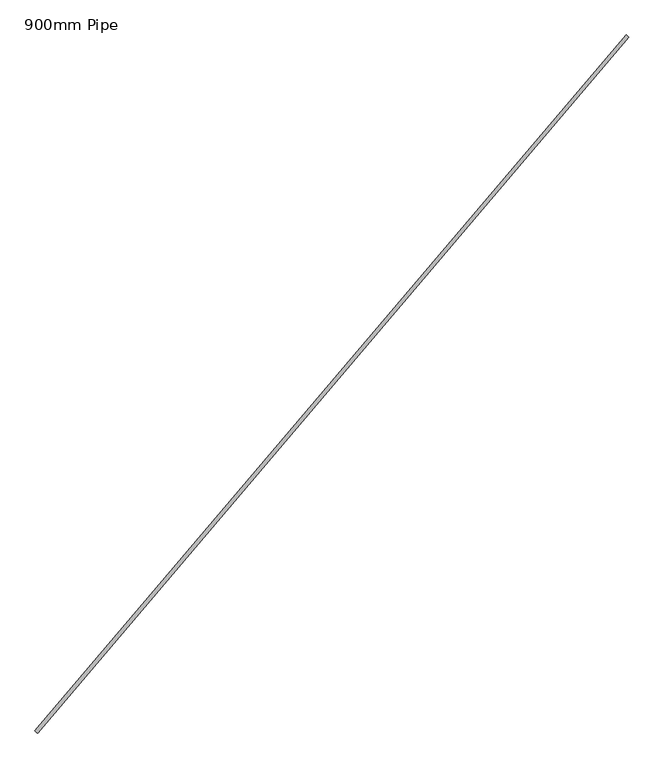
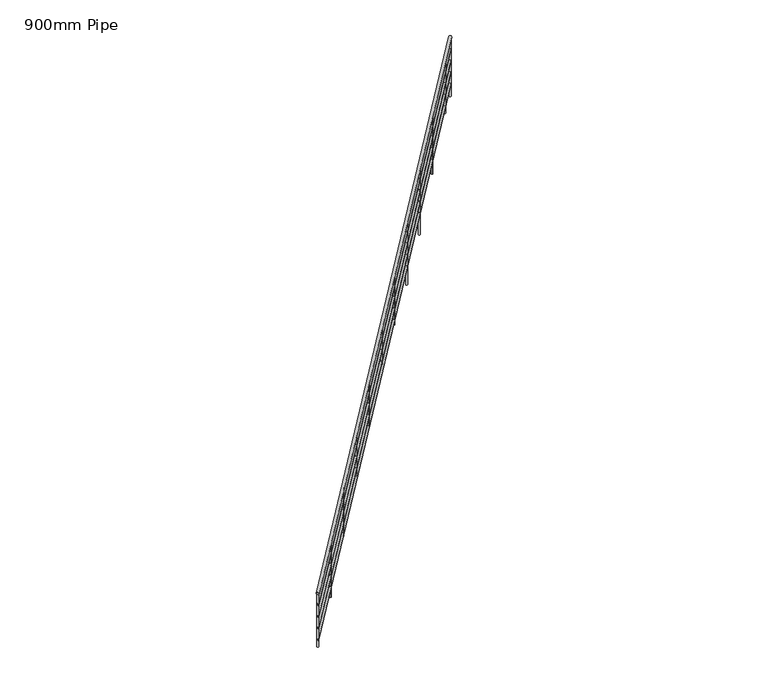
"""IFC4 building model written with IfcOpenShell, lengths in millimetres: railing geometry, 900mm Pipe."""

from ifc_helpers import new_model, si_unit, frame, origin, place, context, project, spatial, circle_curve, ellipse_curve, source, transform, mapped, element, save
from ifc_brep_helpers import plane_surface, cylinder_surface, advanced_brep


def railing_900mm_pipe_16247699(model_context):
    return source(origin(), model_context, "Body", "AdvancedBrep", [
        advanced_brep(
        [(919419.0022177, -23945.5729085, 6101.3054653), (919388.516172, -23919.6769431, 6101.3054653), (926174.2783599, -15992.9187365, 8526.3343786), (926143.7923142, -15967.0227712, 8526.3343786)],
        [
            (0, 1, ellipse_curve(frame((919403.7591948, -23932.6249258, 6101.3054653), z_axis=(-0.6473991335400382, -0.7621511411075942, 0.0), x_axis=(0.0, 0.0, -0.9999999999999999)), 20.5330192, 20.0)),
            (1, 0, ellipse_curve(frame((919403.7591948, -23932.6249258, 6101.3054653), z_axis=(-0.6473991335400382, -0.7621511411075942, 0.0), x_axis=(0.0, 0.0, -0.9999999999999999)), 20.5330192, 20.0)),
            (2, 3, ellipse_curve(frame((926159.035337, -15979.9707538, 8526.3343786), z_axis=(0.6473991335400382, 0.7621511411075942, 0.0), x_axis=(0.0, 0.0, -0.9999999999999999)), 20.5330192, 20.0)),
            (3, 2, ellipse_curve(frame((926159.035337, -15979.9707538, 8526.3343786), z_axis=(0.6473991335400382, 0.7621511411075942, 0.0), x_axis=(0.0, 0.0, -0.9999999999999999)), 20.5330192, 20.0)),
            (1, 3),
            (2, 0),
        ],
        [
            plane_surface(frame((919403.7591948, -23932.6249258, 6121.8384845), z_axis=(-0.6473991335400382, -0.7621511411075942, 0.0), x_axis=(0.7621511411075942, -0.6473991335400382, 0.0))),
            plane_surface(frame((926159.035337, -15979.9707538, 8546.8673978), z_axis=(0.6473991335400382, 0.7621511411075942, 0.0), x_axis=(0.7621511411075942, -0.6473991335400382, 0.0))),
            cylinder_surface(frame((919406.6902583, -23929.174329, 6102.3576671), z_axis=(-0.6305932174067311, -0.7423663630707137, -0.22637220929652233), x_axis=(-0.7621511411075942, 0.6473991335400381, 0.0)), 20.0),
        ],
        [
            (0, [[1, 2]]),
            (1, [[3, 4]]),
            (2, [[-2, 5, -3, 6]]),
            (2, [[-1, -6, -4, -5]]),
        ],
    ),
        advanced_brep(
        [(919415.191462, -23942.3359128, 5906.4387201), (919392.3269277, -23922.9139388, 5906.4387201), (926170.4676042, -15989.6817408, 8331.4676334), (926147.6030699, -15970.2597668, 8331.4676334)],
        [
            (0, 1, ellipse_curve(frame((919403.7591948, -23932.6249258, 5906.4387201), z_axis=(-0.6473991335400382, -0.7621511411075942, 0.0), x_axis=(0.0, 0.0, -0.9999999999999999)), 15.3997644, 15.0)),
            (1, 0, ellipse_curve(frame((919403.7591948, -23932.6249258, 5906.4387201), z_axis=(-0.6473991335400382, -0.7621511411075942, 0.0), x_axis=(0.0, 0.0, -0.9999999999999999)), 15.3997644, 15.0)),
            (2, 3, ellipse_curve(frame((926159.035337, -15979.9707538, 8331.4676334), z_axis=(0.6473991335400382, 0.7621511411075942, 0.0), x_axis=(0.0, 0.0, -0.9999999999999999)), 15.3997644, 15.0)),
            (3, 2, ellipse_curve(frame((926159.035337, -15979.9707538, 8331.4676334), z_axis=(0.6473991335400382, 0.7621511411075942, 0.0), x_axis=(0.0, 0.0, -0.9999999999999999)), 15.3997644, 15.0)),
            (0, 2),
            (3, 1),
        ],
        [
            plane_surface(frame((919403.7591948, -23932.6249258, 5921.8384845), z_axis=(-0.6473991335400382, -0.7621511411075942, 0.0), x_axis=(0.7621511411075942, -0.6473991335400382, 0.0))),
            plane_surface(frame((926159.035337, -15979.9707538, 8346.8673978), z_axis=(0.6473991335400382, 0.7621511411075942, 0.0), x_axis=(0.7621511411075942, -0.6473991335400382, 0.0))),
            cylinder_surface(frame((919405.9574924, -23930.0369782, 5907.2278714), z_axis=(-0.6305932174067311, -0.7423663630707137, -0.22637220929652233), x_axis=(-0.7621511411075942, 0.6473991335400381, 0.0)), 15.0),
        ],
        [
            (0, [[1, 2]]),
            (1, [[3, 4]]),
            (2, [[-1, 5, -4, 6]]),
            (2, [[-2, -6, -3, -5]]),
        ],
    ),
        advanced_brep(
        [(919415.191462, -23942.3359128, 5706.4387201), (919392.3269277, -23922.9139388, 5706.4387201), (926170.4676042, -15989.6817408, 8131.4676334), (926147.6030699, -15970.2597668, 8131.4676334)],
        [
            (0, 1, ellipse_curve(frame((919403.7591948, -23932.6249258, 5706.4387201), z_axis=(-0.6473991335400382, -0.7621511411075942, 0.0), x_axis=(0.0, 0.0, -0.9999999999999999)), 15.3997644, 15.0)),
            (1, 0, ellipse_curve(frame((919403.7591948, -23932.6249258, 5706.4387201), z_axis=(-0.6473991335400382, -0.7621511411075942, 0.0), x_axis=(0.0, 0.0, -0.9999999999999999)), 15.3997644, 15.0)),
            (2, 3, ellipse_curve(frame((926159.035337, -15979.9707538, 8131.4676334), z_axis=(0.6473991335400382, 0.7621511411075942, 0.0), x_axis=(0.0, 0.0, -0.9999999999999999)), 15.3997644, 15.0)),
            (3, 2, ellipse_curve(frame((926159.035337, -15979.9707538, 8131.4676334), z_axis=(0.6473991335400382, 0.7621511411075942, 0.0), x_axis=(0.0, 0.0, -0.9999999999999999)), 15.3997644, 15.0)),
            (0, 2),
            (3, 1),
        ],
        [
            plane_surface(frame((919403.7591948, -23932.6249258, 5721.8384845), z_axis=(-0.6473991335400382, -0.7621511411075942, 0.0), x_axis=(0.7621511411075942, -0.6473991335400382, 0.0))),
            plane_surface(frame((926159.035337, -15979.9707538, 8146.8673978), z_axis=(0.6473991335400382, 0.7621511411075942, 0.0), x_axis=(0.7621511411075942, -0.6473991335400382, 0.0))),
            cylinder_surface(frame((919405.9574924, -23930.0369782, 5707.2278714), z_axis=(-0.6305932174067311, -0.7423663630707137, -0.22637220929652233), x_axis=(-0.7621511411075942, 0.6473991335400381, 0.0)), 15.0),
        ],
        [
            (0, [[1, 2]]),
            (1, [[3, 4]]),
            (2, [[-1, 5, -4, 6]]),
            (2, [[-2, -6, -3, -5]]),
        ],
    ),
        advanced_brep(
        [(919415.191462, -23942.3359128, 5506.4387201), (919392.3269277, -23922.9139388, 5506.4387201), (926170.4676042, -15989.6817408, 7931.4676334), (926147.6030699, -15970.2597668, 7931.4676334)],
        [
            (0, 1, ellipse_curve(frame((919403.7591948, -23932.6249258, 5506.4387201), z_axis=(-0.6473991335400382, -0.7621511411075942, 0.0), x_axis=(0.0, 0.0, -0.9999999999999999)), 15.3997644, 15.0)),
            (1, 0, ellipse_curve(frame((919403.7591948, -23932.6249258, 5506.4387201), z_axis=(-0.6473991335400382, -0.7621511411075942, 0.0), x_axis=(0.0, 0.0, -0.9999999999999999)), 15.3997644, 15.0)),
            (2, 3, ellipse_curve(frame((926159.035337, -15979.9707538, 7931.4676334), z_axis=(0.6473991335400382, 0.7621511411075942, 0.0), x_axis=(0.0, 0.0, -0.9999999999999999)), 15.3997644, 15.0)),
            (3, 2, ellipse_curve(frame((926159.035337, -15979.9707538, 7931.4676334), z_axis=(0.6473991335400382, 0.7621511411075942, 0.0), x_axis=(0.0, 0.0, -0.9999999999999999)), 15.3997644, 15.0)),
            (0, 2),
            (3, 1),
        ],
        [
            plane_surface(frame((919403.7591948, -23932.6249258, 5521.8384845), z_axis=(-0.6473991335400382, -0.7621511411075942, 0.0), x_axis=(0.7621511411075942, -0.6473991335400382, 0.0))),
            plane_surface(frame((926159.035337, -15979.9707538, 7946.8673978), z_axis=(0.6473991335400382, 0.7621511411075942, 0.0), x_axis=(0.7621511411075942, -0.6473991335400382, 0.0))),
            cylinder_surface(frame((919405.9574924, -23930.0369782, 5507.2278714), z_axis=(-0.6305932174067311, -0.7423663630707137, -0.22637220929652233), x_axis=(-0.7621511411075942, 0.6473991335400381, 0.0)), 15.0),
        ],
        [
            (0, [[1, 2]]),
            (1, [[3, 4]]),
            (2, [[-1, 5, -4, 6]]),
            (2, [[-2, -6, -3, -5]]),
        ],
    ),
        advanced_brep(
        [(919415.191462, -23942.3359128, 5306.4387201), (919392.3269277, -23922.9139388, 5306.4387201), (926170.4676042, -15989.6817408, 7731.4676334), (926147.6030699, -15970.2597668, 7731.4676334)],
        [
            (0, 1, ellipse_curve(frame((919403.7591948, -23932.6249258, 5306.4387201), z_axis=(-0.6473991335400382, -0.7621511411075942, 0.0), x_axis=(0.0, 0.0, -0.9999999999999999)), 15.3997644, 15.0)),
            (1, 0, ellipse_curve(frame((919403.7591948, -23932.6249258, 5306.4387201), z_axis=(-0.6473991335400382, -0.7621511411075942, 0.0), x_axis=(0.0, 0.0, -0.9999999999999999)), 15.3997644, 15.0)),
            (2, 3, ellipse_curve(frame((926159.035337, -15979.9707538, 7731.4676334), z_axis=(0.6473991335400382, 0.7621511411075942, 0.0), x_axis=(0.0, 0.0, -0.9999999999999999)), 15.3997644, 15.0)),
            (3, 2, ellipse_curve(frame((926159.035337, -15979.9707538, 7731.4676334), z_axis=(0.6473991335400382, 0.7621511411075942, 0.0), x_axis=(0.0, 0.0, -0.9999999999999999)), 15.3997644, 15.0)),
            (0, 2),
            (3, 1),
        ],
        [
            plane_surface(frame((919403.7591948, -23932.6249258, 5321.8384845), z_axis=(-0.6473991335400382, -0.7621511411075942, 0.0), x_axis=(0.7621511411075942, -0.6473991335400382, 0.0))),
            plane_surface(frame((926159.035337, -15979.9707538, 7746.8673978), z_axis=(0.6473991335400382, 0.7621511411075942, 0.0), x_axis=(0.7621511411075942, -0.6473991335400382, 0.0))),
            cylinder_surface(frame((919405.9574924, -23930.0369782, 5307.2278714), z_axis=(-0.6305932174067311, -0.7423663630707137, -0.22637220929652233), x_axis=(-0.7621511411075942, 0.6473991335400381, 0.0)), 15.0),
        ],
        [
            (0, [[1, 2]]),
            (1, [[3, 4]]),
            (2, [[-1, 5, -4, 6]]),
            (2, [[-2, -6, -3, -5]]),
        ],
    ),
        advanced_brep(
        [(925868.223641, -16303.0210255, 8404.8249114), (925887.2774195, -16319.2060039, 8404.8249114), (925887.2774195, -16319.2060039, 7510.1176471), (925868.223641, -16303.0210255, 7510.1176471)],
        [
            (0, 1, ellipse_curve(frame((925877.7505302, -16311.1135147, 8404.8249114), z_axis=(0.146553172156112, 0.17252983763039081, -0.9740408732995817), x_axis=(0.6305932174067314, 0.7423663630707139, 0.22637220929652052)), 12.833137, 12.5)),
            (1, 2),
            (2, 3, circle_curve(frame((925877.7505302, -16311.1135147, 7510.1176471), z_axis=(0.0, 0.0, 0.9999999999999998), x_axis=(0.7621511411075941, -0.6473991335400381, 0.0)), 12.5)),
            (3, 0),
            (3, 2, circle_curve(frame((925877.7505302, -16311.1135147, 7510.1176471), z_axis=(0.0, 0.0, 0.9999999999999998), x_axis=(0.7621511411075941, -0.6473991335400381, 0.0)), 12.5)),
            (1, 0, ellipse_curve(frame((925877.7505302, -16311.1135147, 8404.8249114), z_axis=(0.146553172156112, 0.17252983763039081, -0.9740408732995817), x_axis=(0.6305932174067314, 0.7423663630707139, 0.22637220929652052)), 12.833137, 12.5)),
        ],
        [
            cylinder_surface(frame((925877.7505302, -16311.1135147, 7410.1176471), z_axis=(0.0, 0.0, 0.9999999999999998), x_axis=(0.7621511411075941, -0.6473991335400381, 0.0)), 12.5),
            plane_surface(frame((925912.9892871, -16308.2447145, 8410.6350426), z_axis=(-0.146553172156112, -0.17252983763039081, 0.9740408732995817), x_axis=(-0.7621511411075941, 0.6473991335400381, 0.0))),
            plane_surface(frame((925880.6193304, -16346.3522716, 7510.1176471), z_axis=(0.0, 0.0, -0.9999999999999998), x_axis=(-0.7621511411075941, 0.6473991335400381, 0.0))),
        ],
        [
            (0, [[1, 2, 3, 4]]),
            (0, [[5, -2, 6, -4]]),
            (1, [[-6, -1]]),
            (2, [[-5, -3]]),
        ],
    ),
        advanced_brep(
        [(925220.8245074, -17065.1721667, 8172.4196649), (925239.878286, -17081.357145, 8172.4196649), (925239.878286, -17081.357145, 7151.5294118), (925220.8245074, -17065.1721667, 7151.5294118)],
        [
            (0, 1, ellipse_curve(frame((925230.3513967, -17073.2646558, 8172.4196649), z_axis=(0.146553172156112, 0.17252983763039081, -0.9740408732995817), x_axis=(0.6305932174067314, 0.7423663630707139, 0.22637220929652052)), 12.833137, 12.5)),
            (1, 2),
            (2, 3, circle_curve(frame((925230.3513967, -17073.2646558, 7151.5294118), z_axis=(0.0, 0.0, 0.9999999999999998), x_axis=(0.7621511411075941, -0.6473991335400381, 0.0)), 12.5)),
            (3, 0),
            (3, 2, circle_curve(frame((925230.3513967, -17073.2646558, 7151.5294118), z_axis=(0.0, 0.0, 0.9999999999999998), x_axis=(0.7621511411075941, -0.6473991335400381, 0.0)), 12.5)),
            (1, 0, ellipse_curve(frame((925230.3513967, -17073.2646558, 8172.4196649), z_axis=(0.146553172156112, 0.17252983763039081, -0.9740408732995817), x_axis=(0.6305932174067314, 0.7423663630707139, 0.22637220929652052)), 12.833137, 12.5)),
        ],
        [
            cylinder_surface(frame((925230.3513967, -17073.2646558, 7051.5294118), z_axis=(0.0, 0.0, 0.9999999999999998), x_axis=(0.7621511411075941, -0.6473991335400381, 0.0)), 12.5),
            plane_surface(frame((925265.5901536, -17070.3958556, 8178.229796), z_axis=(-0.146553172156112, -0.17252983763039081, 0.9740408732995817), x_axis=(-0.7621511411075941, 0.6473991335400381, 0.0))),
            plane_surface(frame((925233.2201969, -17108.5034127, 7151.5294118), z_axis=(0.0, 0.0, -0.9999999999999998), x_axis=(-0.7621511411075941, 0.6473991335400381, 0.0))),
        ],
        [
            (0, [[1, 2, 3, 4]]),
            (0, [[5, -2, 6, -4]]),
            (1, [[-6, -1]]),
            (2, [[-5, -3]]),
        ],
    ),
        advanced_brep(
        [(924573.4253739, -17827.3233078, 7940.0144183), (924592.4791524, -17843.5082861, 7940.0144183), (924592.4791524, -17843.5082861, 6792.9411765), (924573.4253739, -17827.3233078, 6792.9411765)],
        [
            (0, 1, ellipse_curve(frame((924582.9522632, -17835.4157969, 7940.0144183), z_axis=(0.146553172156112, 0.17252983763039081, -0.9740408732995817), x_axis=(0.6305932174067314, 0.7423663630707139, 0.22637220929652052)), 12.833137, 12.5)),
            (1, 2),
            (2, 3, circle_curve(frame((924582.9522632, -17835.4157969, 6792.9411765), z_axis=(0.0, 0.0, 0.9999999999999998), x_axis=(0.7621511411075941, -0.6473991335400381, 0.0)), 12.5)),
            (3, 0),
            (3, 2, circle_curve(frame((924582.9522632, -17835.4157969, 6792.9411765), z_axis=(0.0, 0.0, 0.9999999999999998), x_axis=(0.7621511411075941, -0.6473991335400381, 0.0)), 12.5)),
            (1, 0, ellipse_curve(frame((924582.9522632, -17835.4157969, 7940.0144183), z_axis=(0.146553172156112, 0.17252983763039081, -0.9740408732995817), x_axis=(0.6305932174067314, 0.7423663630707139, 0.22637220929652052)), 12.833137, 12.5)),
        ],
        [
            cylinder_surface(frame((924582.9522632, -17835.4157969, 6692.9411765), z_axis=(0.0, 0.0, 0.9999999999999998), x_axis=(0.7621511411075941, -0.6473991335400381, 0.0)), 12.5),
            plane_surface(frame((924618.19102, -17832.5469967, 7945.8245495), z_axis=(-0.146553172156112, -0.17252983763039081, 0.9740408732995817), x_axis=(-0.7621511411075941, 0.6473991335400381, 0.0))),
            plane_surface(frame((924585.8210634, -17870.6545538, 6792.9411765), z_axis=(0.0, 0.0, -0.9999999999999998), x_axis=(-0.7621511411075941, 0.6473991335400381, 0.0))),
        ],
        [
            (0, [[1, 2, 3, 4]]),
            (0, [[5, -2, 6, -4]]),
            (1, [[-6, -1]]),
            (2, [[-5, -3]]),
        ],
    ),
        advanced_brep(
        [(923926.0262404, -18589.4744489, 7707.6091718), (923945.0800189, -18605.6594272, 7707.6091718), (923945.0800189, -18605.6594272, 6613.6470588), (923926.0262404, -18589.4744489, 6613.6470588)],
        [
            (0, 1, ellipse_curve(frame((923935.5531296, -18597.566938, 7707.6091718), z_axis=(0.146553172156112, 0.17252983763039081, -0.9740408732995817), x_axis=(0.6305932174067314, 0.7423663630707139, 0.22637220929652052)), 12.833137, 12.5)),
            (1, 2),
            (2, 3, circle_curve(frame((923935.5531296, -18597.566938, 6613.6470588), z_axis=(0.0, 0.0, 0.9999999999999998), x_axis=(0.7621511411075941, -0.6473991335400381, 0.0)), 12.5)),
            (3, 0),
            (3, 2, circle_curve(frame((923935.5531296, -18597.566938, 6613.6470588), z_axis=(0.0, 0.0, 0.9999999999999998), x_axis=(0.7621511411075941, -0.6473991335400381, 0.0)), 12.5)),
            (1, 0, ellipse_curve(frame((923935.5531296, -18597.566938, 7707.6091718), z_axis=(0.146553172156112, 0.17252983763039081, -0.9740408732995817), x_axis=(0.6305932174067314, 0.7423663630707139, 0.22637220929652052)), 12.833137, 12.5)),
        ],
        [
            cylinder_surface(frame((923935.5531296, -18597.566938, 6513.6470588), z_axis=(0.0, 0.0, 0.9999999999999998), x_axis=(0.7621511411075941, -0.6473991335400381, 0.0)), 12.5),
            plane_surface(frame((923970.7918865, -18594.6981378, 7713.419303), z_axis=(-0.146553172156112, -0.17252983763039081, 0.9740408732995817), x_axis=(-0.7621511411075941, 0.6473991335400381, 0.0))),
            plane_surface(frame((923938.4219298, -18632.8056949, 6613.6470588), z_axis=(0.0, 0.0, -0.9999999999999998), x_axis=(-0.7621511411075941, 0.6473991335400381, 0.0))),
        ],
        [
            (0, [[1, 2, 3, 4]]),
            (0, [[5, -2, 6, -4]]),
            (1, [[-6, -1]]),
            (2, [[-5, -3]]),
        ],
    ),
        advanced_brep(
        [(923278.6271068, -19351.62559, 7475.2039253), (923297.6808853, -19367.8105683, 7475.2039253), (923297.6808853, -19367.8105683, 6613.6470588), (923278.6271068, -19351.62559, 6613.6470588)],
        [
            (0, 1, ellipse_curve(frame((923288.1539961, -19359.7180791, 7475.2039253), z_axis=(0.146553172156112, 0.17252983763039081, -0.9740408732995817), x_axis=(0.6305932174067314, 0.7423663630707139, 0.22637220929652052)), 12.833137, 12.5)),
            (1, 2),
            (2, 3, circle_curve(frame((923288.1539961, -19359.7180791, 6613.6470588), z_axis=(0.0, 0.0, 0.9999999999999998), x_axis=(0.7621511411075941, -0.6473991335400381, 0.0)), 12.5)),
            (3, 0),
            (3, 2, circle_curve(frame((923288.1539961, -19359.7180791, 6613.6470588), z_axis=(0.0, 0.0, 0.9999999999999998), x_axis=(0.7621511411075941, -0.6473991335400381, 0.0)), 12.5)),
            (1, 0, ellipse_curve(frame((923288.1539961, -19359.7180791, 7475.2039253), z_axis=(0.146553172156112, 0.17252983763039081, -0.9740408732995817), x_axis=(0.6305932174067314, 0.7423663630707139, 0.22637220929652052)), 12.833137, 12.5)),
        ],
        [
            cylinder_surface(frame((923288.1539961, -19359.7180791, 6513.6470588), z_axis=(0.0, 0.0, 0.9999999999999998), x_axis=(0.7621511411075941, -0.6473991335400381, 0.0)), 12.5),
            plane_surface(frame((923323.3927529, -19356.849279, 7481.0140564), z_axis=(-0.146553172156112, -0.17252983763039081, 0.9740408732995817), x_axis=(-0.7621511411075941, 0.6473991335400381, 0.0))),
            plane_surface(frame((923291.0227963, -19394.956836, 6613.6470588), z_axis=(0.0, 0.0, -0.9999999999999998), x_axis=(-0.7621511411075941, 0.6473991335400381, 0.0))),
        ],
        [
            (0, [[1, 2, 3, 4]]),
            (0, [[5, -2, 6, -4]]),
            (1, [[-6, -1]]),
            (2, [[-5, -3]]),
        ],
    ),
        advanced_brep(
        [(922631.2279733, -20113.7767311, 7242.7986787), (922650.2817518, -20129.9617094, 7242.7986787), (922650.2817518, -20129.9617094, 6613.6470588), (922631.2279733, -20113.7767311, 6613.6470588)],
        [
            (0, 1, ellipse_curve(frame((922640.7548625, -20121.8692202, 7242.7986787), z_axis=(0.146553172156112, 0.17252983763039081, -0.9740408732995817), x_axis=(0.6305932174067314, 0.7423663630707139, 0.22637220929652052)), 12.833137, 12.5)),
            (1, 2),
            (2, 3, circle_curve(frame((922640.7548625, -20121.8692202, 6613.6470588), z_axis=(0.0, 0.0, 0.9999999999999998), x_axis=(0.7621511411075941, -0.6473991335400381, 0.0)), 12.5)),
            (3, 0),
            (3, 2, circle_curve(frame((922640.7548625, -20121.8692202, 6613.6470588), z_axis=(0.0, 0.0, 0.9999999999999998), x_axis=(0.7621511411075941, -0.6473991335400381, 0.0)), 12.5)),
            (1, 0, ellipse_curve(frame((922640.7548625, -20121.8692202, 7242.7986787), z_axis=(0.146553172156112, 0.17252983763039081, -0.9740408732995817), x_axis=(0.6305932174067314, 0.7423663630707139, 0.22637220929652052)), 12.833137, 12.5)),
        ],
        [
            cylinder_surface(frame((922640.7548625, -20121.8692202, 6513.6470588), z_axis=(0.0, 0.0, 0.9999999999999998), x_axis=(0.7621511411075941, -0.6473991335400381, 0.0)), 12.5),
            plane_surface(frame((922675.9936194, -20119.0004201, 7248.6088099), z_axis=(-0.146553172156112, -0.17252983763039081, 0.9740408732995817), x_axis=(-0.7621511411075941, 0.6473991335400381, 0.0))),
            plane_surface(frame((922643.6236627, -20157.1079771, 6613.6470588), z_axis=(0.0, 0.0, -0.9999999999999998), x_axis=(-0.7621511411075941, 0.6473991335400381, 0.0))),
        ],
        [
            (0, [[1, 2, 3, 4]]),
            (0, [[5, -2, 6, -4]]),
            (1, [[-6, -1]]),
            (2, [[-5, -3]]),
        ],
    ),
        advanced_brep(
        [(921983.8288397, -20875.9278722, 7010.3934322), (922002.8826183, -20892.1128505, 7010.3934322), (922002.8826183, -20892.1128505, 6255.0588235), (921983.8288397, -20875.9278722, 6255.0588235)],
        [
            (0, 1, ellipse_curve(frame((921993.355729, -20884.0203614, 7010.3934322), z_axis=(0.146553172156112, 0.17252983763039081, -0.9740408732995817), x_axis=(0.6305932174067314, 0.7423663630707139, 0.22637220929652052)), 12.833137, 12.5)),
            (1, 2),
            (2, 3, circle_curve(frame((921993.355729, -20884.0203614, 6255.0588235), z_axis=(0.0, 0.0, 0.9999999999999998), x_axis=(0.7621511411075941, -0.6473991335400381, 0.0)), 12.5)),
            (3, 0),
            (3, 2, circle_curve(frame((921993.355729, -20884.0203614, 6255.0588235), z_axis=(0.0, 0.0, 0.9999999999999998), x_axis=(0.7621511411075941, -0.6473991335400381, 0.0)), 12.5)),
            (1, 0, ellipse_curve(frame((921993.355729, -20884.0203614, 7010.3934322), z_axis=(0.146553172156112, 0.17252983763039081, -0.9740408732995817), x_axis=(0.6305932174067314, 0.7423663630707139, 0.22637220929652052)), 12.833137, 12.5)),
        ],
        [
            cylinder_surface(frame((921993.355729, -20884.0203614, 6155.0588235), z_axis=(0.0, 0.0, 0.9999999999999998), x_axis=(0.7621511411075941, -0.6473991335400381, 0.0)), 12.5),
            plane_surface(frame((922028.5944859, -20881.1515612, 7016.2035634), z_axis=(-0.146553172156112, -0.17252983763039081, 0.9740408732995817), x_axis=(-0.7621511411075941, 0.6473991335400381, 0.0))),
            plane_surface(frame((921996.2245292, -20919.2591182, 6255.0588235), z_axis=(0.0, 0.0, -0.9999999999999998), x_axis=(-0.7621511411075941, 0.6473991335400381, 0.0))),
        ],
        [
            (0, [[1, 2, 3, 4]]),
            (0, [[5, -2, 6, -4]]),
            (1, [[-6, -1]]),
            (2, [[-5, -3]]),
        ],
    ),
        advanced_brep(
        [(921336.4297062, -21638.0790133, 6777.9881857), (921355.4834847, -21654.2639916, 6777.9881857), (921355.4834847, -21654.2639916, 6075.7647059), (921336.4297062, -21638.0790133, 6075.7647059)],
        [
            (0, 1, ellipse_curve(frame((921345.9565955, -21646.1715025, 6777.9881857), z_axis=(0.14655317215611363, 0.1725298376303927, -0.9740408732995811), x_axis=(0.630593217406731, 0.7423663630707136, 0.22637220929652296)), 12.833137, 12.5)),
            (1, 2),
            (2, 3, circle_curve(frame((921345.9565955, -21646.1715025, 6075.7647059), z_axis=(0.0, 0.0, 0.9999999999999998), x_axis=(0.7621511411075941, -0.6473991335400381, 0.0)), 12.5)),
            (3, 0),
            (3, 2, circle_curve(frame((921345.9565955, -21646.1715025, 6075.7647059), z_axis=(0.0, 0.0, 0.9999999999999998), x_axis=(0.7621511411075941, -0.6473991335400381, 0.0)), 12.5)),
            (1, 0, ellipse_curve(frame((921345.9565955, -21646.1715025, 6777.9881857), z_axis=(0.14655317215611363, 0.1725298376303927, -0.9740408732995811), x_axis=(0.630593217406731, 0.7423663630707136, 0.22637220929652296)), 12.833137, 12.5)),
        ],
        [
            cylinder_surface(frame((921345.9565955, -21646.1715025, 5975.7647059), z_axis=(0.0, 0.0, 0.9999999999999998), x_axis=(0.7621511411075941, -0.6473991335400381, 0.0)), 12.5),
            plane_surface(frame((921381.1953523, -21643.3027023, 6783.7983168), z_axis=(-0.14655317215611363, -0.1725298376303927, 0.9740408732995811), x_axis=(-0.7621511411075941, 0.6473991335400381, 0.0))),
            plane_surface(frame((921348.8253957, -21681.4102593, 6075.7647059), z_axis=(0.0, 0.0, -0.9999999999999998), x_axis=(-0.7621511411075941, 0.6473991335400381, 0.0))),
        ],
        [
            (0, [[1, 2, 3, 4]]),
            (0, [[5, -2, 6, -4]]),
            (1, [[-6, -1]]),
            (2, [[-5, -3]]),
        ],
    ),
        advanced_brep(
        [(920689.0305727, -22400.2301544, 6545.5829391), (920708.0843512, -22416.4151327, 6545.5829391), (920708.0843512, -22416.4151327, 5717.1764706), (920689.0305727, -22400.2301544, 5717.1764706)],
        [
            (0, 1, ellipse_curve(frame((920698.5574619, -22408.3226436, 6545.5829391), z_axis=(0.146553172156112, 0.17252983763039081, -0.9740408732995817), x_axis=(0.6305932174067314, 0.7423663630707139, 0.22637220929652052)), 12.833137, 12.5)),
            (1, 2),
            (2, 3, circle_curve(frame((920698.5574619, -22408.3226436, 5717.1764706), z_axis=(0.0, 0.0, 0.9999999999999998), x_axis=(0.7621511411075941, -0.6473991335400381, 0.0)), 12.5)),
            (3, 0),
            (3, 2, circle_curve(frame((920698.5574619, -22408.3226436, 5717.1764706), z_axis=(0.0, 0.0, 0.9999999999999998), x_axis=(0.7621511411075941, -0.6473991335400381, 0.0)), 12.5)),
            (1, 0, ellipse_curve(frame((920698.5574619, -22408.3226436, 6545.5829391), z_axis=(0.146553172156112, 0.17252983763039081, -0.9740408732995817), x_axis=(0.6305932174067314, 0.7423663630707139, 0.22637220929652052)), 12.833137, 12.5)),
        ],
        [
            cylinder_surface(frame((920698.5574619, -22408.3226436, 5617.1764706), z_axis=(0.0, 0.0, 0.9999999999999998), x_axis=(0.7621511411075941, -0.6473991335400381, 0.0)), 12.5),
            plane_surface(frame((920733.7962188, -22405.4538434, 6551.3930703), z_axis=(-0.146553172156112, -0.17252983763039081, 0.9740408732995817), x_axis=(-0.7621511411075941, 0.6473991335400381, 0.0))),
            plane_surface(frame((920701.4262621, -22443.5614004, 5717.1764706), z_axis=(0.0, 0.0, -0.9999999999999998), x_axis=(-0.7621511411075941, 0.6473991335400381, 0.0))),
        ],
        [
            (0, [[1, 2, 3, 4]]),
            (0, [[5, -2, 6, -4]]),
            (1, [[-6, -1]]),
            (2, [[-5, -3]]),
        ],
    ),
        advanced_brep(
        [(920041.6314391, -23162.3812955, 6313.1776926), (920060.6852176, -23178.5662738, 6313.1776926), (920060.6852176, -23178.5662738, 5358.5882353), (920041.6314391, -23162.3812955, 5358.5882353)],
        [
            (0, 1, ellipse_curve(frame((920051.1583284, -23170.4737847, 6313.1776926), z_axis=(0.14655317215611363, 0.1725298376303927, -0.9740408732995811), x_axis=(0.630593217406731, 0.7423663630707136, 0.22637220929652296)), 12.833137, 12.5)),
            (1, 2),
            (2, 3, circle_curve(frame((920051.1583284, -23170.4737847, 5358.5882353), z_axis=(0.0, 0.0, 0.9999999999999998), x_axis=(0.7621511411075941, -0.6473991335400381, 0.0)), 12.5)),
            (3, 0),
            (3, 2, circle_curve(frame((920051.1583284, -23170.4737847, 5358.5882353), z_axis=(0.0, 0.0, 0.9999999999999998), x_axis=(0.7621511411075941, -0.6473991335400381, 0.0)), 12.5)),
            (1, 0, ellipse_curve(frame((920051.1583284, -23170.4737847, 6313.1776926), z_axis=(0.14655317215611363, 0.1725298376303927, -0.9740408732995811), x_axis=(0.630593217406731, 0.7423663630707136, 0.22637220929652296)), 12.833137, 12.5)),
        ],
        [
            cylinder_surface(frame((920051.1583284, -23170.4737847, 5258.5882353), z_axis=(0.0, 0.0, 0.9999999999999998), x_axis=(0.7621511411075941, -0.6473991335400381, 0.0)), 12.5),
            plane_surface(frame((920086.3970852, -23167.6049845, 6318.9878238), z_axis=(-0.14655317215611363, -0.1725298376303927, 0.9740408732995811), x_axis=(-0.7621511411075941, 0.6473991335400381, 0.0))),
            plane_surface(frame((920054.0271286, -23205.7125415, 5358.5882353), z_axis=(0.0, 0.0, -0.9999999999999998), x_axis=(-0.7621511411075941, 0.6473991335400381, 0.0))),
        ],
        [
            (0, [[1, 2, 3, 4]]),
            (0, [[5, -2, 6, -4]]),
            (1, [[-6, -1]]),
            (2, [[-5, -3]]),
        ],
    ),
        advanced_brep(
        [(926141.4159586, -15981.4051539, 8502.8962937), (926160.4697371, -15997.5901323, 8502.8962937), (926160.4697371, -15997.5901323, 7510.1176471), (926141.4159586, -15981.4051539, 7510.1176471)],
        [
            (0, 1, ellipse_curve(frame((926150.9428479, -15989.4976431, 8502.8962937), z_axis=(0.146553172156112, 0.17252983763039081, -0.9740408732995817), x_axis=(0.6305932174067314, 0.7423663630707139, 0.22637220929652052)), 12.833137, 12.5)),
            (1, 2),
            (2, 3, circle_curve(frame((926150.9428479, -15989.4976431, 7510.1176471), z_axis=(0.0, 0.0, 0.9999999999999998), x_axis=(0.7621511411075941, -0.6473991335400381, 0.0)), 12.5)),
            (3, 0),
            (3, 2, circle_curve(frame((926150.9428479, -15989.4976431, 7510.1176471), z_axis=(0.0, 0.0, 0.9999999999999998), x_axis=(0.7621511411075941, -0.6473991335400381, 0.0)), 12.5)),
            (1, 0, ellipse_curve(frame((926150.9428479, -15989.4976431, 8502.8962937), z_axis=(0.146553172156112, 0.17252983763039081, -0.9740408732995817), x_axis=(0.6305932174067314, 0.7423663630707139, 0.22637220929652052)), 12.833137, 12.5)),
        ],
        [
            cylinder_surface(frame((926150.9428479, -15989.4976431, 7410.1176471), z_axis=(0.0, 0.0, 0.9999999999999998), x_axis=(0.7621511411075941, -0.6473991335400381, 0.0)), 12.5),
            plane_surface(frame((926186.1816047, -15986.6288429, 8508.7064249), z_axis=(-0.146553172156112, -0.17252983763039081, 0.9740408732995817), x_axis=(-0.7621511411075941, 0.6473991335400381, 0.0))),
            plane_surface(frame((926153.8116481, -16024.7364, 7510.1176471), z_axis=(0.0, 0.0, -0.9999999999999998), x_axis=(-0.7621511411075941, 0.6473991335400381, 0.0))),
        ],
        [
            (0, [[1, 2, 3, 4]]),
            (0, [[5, -2, 6, -4]]),
            (1, [[-6, -1]]),
            (2, [[-5, -3]]),
        ],
    ),
        advanced_brep(
        [(919402.3247947, -23915.0055474, 6083.6775116), (919421.3785733, -23931.1905257, 6083.6775116), (919421.3785733, -23931.1905257, 5179.2941176), (919402.3247947, -23915.0055474, 5179.2941176)],
        [
            (0, 1, ellipse_curve(frame((919411.851684, -23923.0980365, 6083.6775116), z_axis=(0.146553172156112, 0.17252983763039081, -0.9740408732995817), x_axis=(0.6305932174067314, 0.7423663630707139, 0.22637220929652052)), 12.833137, 12.5)),
            (1, 2),
            (2, 3, circle_curve(frame((919411.851684, -23923.0980365, 5179.2941176), z_axis=(0.0, 0.0, 0.9999999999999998), x_axis=(0.7621511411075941, -0.6473991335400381, 0.0)), 12.5)),
            (3, 0),
            (3, 2, circle_curve(frame((919411.851684, -23923.0980365, 5179.2941176), z_axis=(0.0, 0.0, 0.9999999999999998), x_axis=(0.7621511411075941, -0.6473991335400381, 0.0)), 12.5)),
            (1, 0, ellipse_curve(frame((919411.851684, -23923.0980365, 6083.6775116), z_axis=(0.146553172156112, 0.17252983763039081, -0.9740408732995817), x_axis=(0.6305932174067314, 0.7423663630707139, 0.22637220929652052)), 12.833137, 12.5)),
        ],
        [
            cylinder_surface(frame((919411.851684, -23923.0980365, 5079.2941176), z_axis=(0.0, 0.0, 0.9999999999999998), x_axis=(0.7621511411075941, -0.6473991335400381, 0.0)), 12.5),
            plane_surface(frame((919447.0904409, -23920.2292363, 6089.4876428), z_axis=(-0.146553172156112, -0.17252983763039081, 0.9740408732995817), x_axis=(-0.7621511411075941, 0.6473991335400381, 0.0))),
            plane_surface(frame((919414.7204842, -23958.3367934, 5179.2941176), z_axis=(0.0, 0.0, -0.9999999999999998), x_axis=(-0.7621511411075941, 0.6473991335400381, 0.0))),
        ],
        [
            (0, [[1, 2, 3, 4]]),
            (0, [[5, -2, 6, -4]]),
            (1, [[-6, -1]]),
            (2, [[-5, -3]]),
        ],
    ),
    ])


if __name__ == "__main__":
    model = new_model("IFC4")
    model_context = context("Model", 3, world=origin())
    ifc_project = project(units=[si_unit("LENGTHUNIT", "METRE", prefix="MILLI")], contexts=[model_context])
    site = spatial("IfcSite", under=ifc_project)
    building = spatial("IfcBuilding", under=site)
    placement = place(None, origin())
    railing_900mm_pipe_shape = railing_900mm_pipe_16247699(model_context)
    element("IfcRailing", 1, ObjectType="900mm Pipe", at=placement, inside=building, context=model_context, shape_type="MappedRepresentation", body=[
        mapped(railing_900mm_pipe_shape, transform((0.0, 0.0, 0.0), x_axis=(1.0, 0.0, 0.0), y_axis=(0.0, 1.0, 0.0), z_axis=(0.0, 0.0, 1.0))),
    ])
    save(model, "model.ifc")
